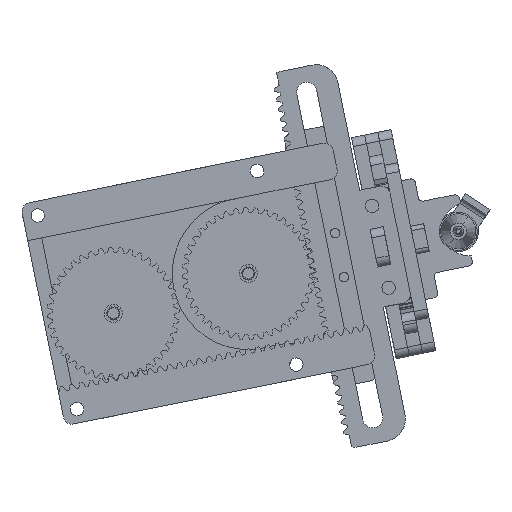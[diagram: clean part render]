
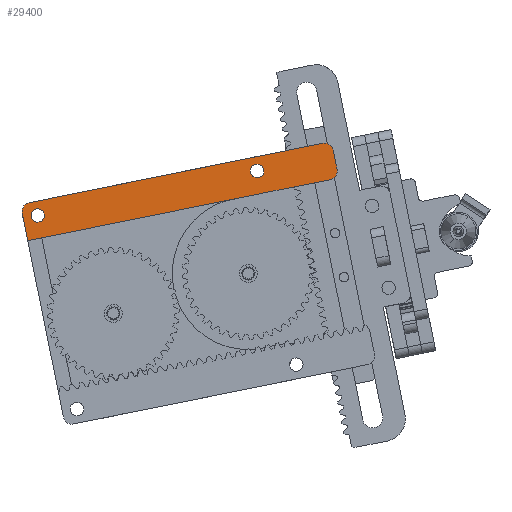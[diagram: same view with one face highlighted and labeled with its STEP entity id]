
A CAD part, front view. The second image highlights one B-rep face of the part: STEP entity #29400.
In plain terms, the highlighted planar face has unit normal (0, -1, 0).
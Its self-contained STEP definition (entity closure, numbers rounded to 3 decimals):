
#10187 = EDGE_CURVE ( 'NONE', #22955, #22954, #50646, .T. ) ;
#10191 = EDGE_CURVE ( 'NONE', #22948, #22947, #50651, .T. ) ;
#10193 = EDGE_CURVE ( 'NONE', #22944, #22943, #50656, .T. ) ;
#10194 = EDGE_CURVE ( 'NONE', #22955, #22946, #50657, .T. ) ;
#10925 = CARTESIAN_POINT ( 'NONE',  ( -2.378, 0., 7.2 ) ) ;
#10933 = CARTESIAN_POINT ( 'NONE',  ( -3.555, 0., 2.394 ) ) ;
#10934 = CARTESIAN_POINT ( 'NONE',  ( -3.555, 0., 5.394 ) ) ;
#10936 = CARTESIAN_POINT ( 'NONE',  ( -2.378, 0., -63.786 ) ) ;
#10937 = CARTESIAN_POINT ( 'NONE',  ( -3.538, 0., -47.687 ) ) ;
#10938 = CARTESIAN_POINT ( 'NONE',  ( -3.538, 0., -44.687 ) ) ;
#10939 = CARTESIAN_POINT ( 'NONE',  ( -6.668, 0., -63.786 ) ) ;
#10940 = CARTESIAN_POINT ( 'NONE',  ( -8.668, 0., -61.786 ) ) ;
#10943 = CARTESIAN_POINT ( 'NONE',  ( -8.668, 0., 7.2 ) ) ;
#10944 = CARTESIAN_POINT ( 'NONE',  ( -0.378, 0., 5.2 ) ) ;
#10945 = CARTESIAN_POINT ( 'NONE',  ( -0.378, 0., -61.786 ) ) ;
#15507 = DIRECTION ( 'NONE',  ( 0., 0., 1. ) ) ;
#15510 = CARTESIAN_POINT ( 'NONE',  ( -0.378, 0., 0. ) ) ;
#15519 = CARTESIAN_POINT ( 'NONE',  ( -3.538, 0., -46.187 ) ) ;
#15520 = DIRECTION ( 'NONE',  ( 0., 1., 0. ) ) ;
#15521 = DIRECTION ( 'NONE',  ( 0., 0., 1. ) ) ;
#15525 = CARTESIAN_POINT ( 'NONE',  ( -3.555, 0., 3.894 ) ) ;
#15526 = DIRECTION ( 'NONE',  ( 0., 1., 0. ) ) ;
#15527 = DIRECTION ( 'NONE',  ( 0., 0., 1. ) ) ;
#15530 = CARTESIAN_POINT ( 'NONE',  ( -2.378, 0., -61.786 ) ) ;
#15531 = DIRECTION ( 'NONE',  ( 0., 1., 0. ) ) ;
#15532 = DIRECTION ( 'NONE',  ( 0., 0., 1. ) ) ;
#17595 = FACE_BOUND ( 'NONE', #48616, .T. ) ;
#17599 = FACE_OUTER_BOUND ( 'NONE', #48613, .T. ) ;
#17604 = FACE_BOUND ( 'NONE', #48615, .T. ) ;
#19447 = AXIS2_PLACEMENT_3D ( 'NONE', #21595, #21591, #21602 ) ;
#19991 = AXIS2_PLACEMENT_3D ( 'NONE', #55836, #55837, #55838 ) ;
#19993 = AXIS2_PLACEMENT_3D ( 'NONE', #55847, #55848, #55849 ) ;
#19994 = AXIS2_PLACEMENT_3D ( 'NONE', #55859, #55860, #55861 ) ;
#19996 = AXIS2_PLACEMENT_3D ( 'NONE', #55878, #55879, #55880 ) ;
#21591 = DIRECTION ( 'NONE',  ( 0., 1., 0. ) ) ;
#21595 = CARTESIAN_POINT ( 'NONE',  ( 0., 0., 0. ) ) ;
#21598 = PLANE ( 'NONE',  #19447 ) ;
#21602 = DIRECTION ( 'NONE',  ( 0., 0., 1. ) ) ;
#22935 = VERTEX_POINT ( 'NONE', #10925 ) ;
#22943 = VERTEX_POINT ( 'NONE', #10933 ) ;
#22944 = VERTEX_POINT ( 'NONE', #10934 ) ;
#22946 = VERTEX_POINT ( 'NONE', #10936 ) ;
#22947 = VERTEX_POINT ( 'NONE', #10937 ) ;
#22948 = VERTEX_POINT ( 'NONE', #10938 ) ;
#22949 = VERTEX_POINT ( 'NONE', #10939 ) ;
#22950 = VERTEX_POINT ( 'NONE', #10940 ) ;
#22953 = VERTEX_POINT ( 'NONE', #10943 ) ;
#22954 = VERTEX_POINT ( 'NONE', #10944 ) ;
#22955 = VERTEX_POINT ( 'NONE', #10945 ) ;
#29400 = ADVANCED_FACE ( 'NONE', ( #17595, #17604, #17599 ), #21598, .F. ) ;
#37242 = EDGE_CURVE ( 'NONE', #22943, #22944, #56679, .T. ) ;
#37246 = EDGE_CURVE ( 'NONE', #22947, #22948, #56684, .T. ) ;
#37248 = EDGE_CURVE ( 'NONE', #22946, #22949, #56687, .T. ) ;
#37252 = EDGE_CURVE ( 'NONE', #22949, #22950, #56695, .T. ) ;
#37255 = EDGE_CURVE ( 'NONE', #22950, #22953, #56700, .T. ) ;
#37258 = EDGE_CURVE ( 'NONE', #22953, #22935, #56705, .T. ) ;
#37261 = EDGE_CURVE ( 'NONE', #22935, #22954, #56711, .T. ) ;
#42187 = ORIENTED_EDGE ( 'NONE', *, *, #37242, .T. ) ;
#42188 = ORIENTED_EDGE ( 'NONE', *, *, #10193, .T. ) ;
#42189 = ORIENTED_EDGE ( 'NONE', *, *, #37246, .T. ) ;
#42190 = ORIENTED_EDGE ( 'NONE', *, *, #10191, .T. ) ;
#42191 = ORIENTED_EDGE ( 'NONE', *, *, #37248, .F. ) ;
#42192 = ORIENTED_EDGE ( 'NONE', *, *, #10194, .F. ) ;
#42193 = ORIENTED_EDGE ( 'NONE', *, *, #10187, .T. ) ;
#42194 = ORIENTED_EDGE ( 'NONE', *, *, #37261, .F. ) ;
#42195 = ORIENTED_EDGE ( 'NONE', *, *, #37258, .F. ) ;
#42196 = ORIENTED_EDGE ( 'NONE', *, *, #37255, .F. ) ;
#42197 = ORIENTED_EDGE ( 'NONE', *, *, #37252, .F. ) ;
#48613 = EDGE_LOOP ( 'NONE', ( #42191, #42192, #42193, #42194, #42195, #42196, #42197 ) ) ;
#48615 = EDGE_LOOP ( 'NONE', ( #42189, #42190 ) ) ;
#48616 = EDGE_LOOP ( 'NONE', ( #42187, #42188 ) ) ;
#50139 = AXIS2_PLACEMENT_3D ( 'NONE', #15519, #15520, #15521 ) ;
#50141 = AXIS2_PLACEMENT_3D ( 'NONE', #15525, #15526, #15527 ) ;
#50142 = AXIS2_PLACEMENT_3D ( 'NONE', #15530, #15531, #15532 ) ;
#50646 = LINE ( 'NONE', #15510, #50650 ) ;
#50650 = VECTOR ( 'NONE', #15507, 1000. ) ;
#50651 = CIRCLE ( 'NONE', #50139, 1.5 ) ;
#50656 = CIRCLE ( 'NONE', #50141, 1.5 ) ;
#50657 = CIRCLE ( 'NONE', #50142, 2. ) ;
#55836 = CARTESIAN_POINT ( 'NONE',  ( -3.555, 0., 3.894 ) ) ;
#55837 = DIRECTION ( 'NONE',  ( 0., 1., 0. ) ) ;
#55838 = DIRECTION ( 'NONE',  ( 0., 0., 1. ) ) ;
#55847 = CARTESIAN_POINT ( 'NONE',  ( -3.538, 0., -46.187 ) ) ;
#55848 = DIRECTION ( 'NONE',  ( 0., 1., 0. ) ) ;
#55849 = DIRECTION ( 'NONE',  ( 0., 0., 1. ) ) ;
#55850 = CARTESIAN_POINT ( 'NONE',  ( 0., 0., -63.786 ) ) ;
#55852 = DIRECTION ( 'NONE',  ( -1., 0., 0. ) ) ;
#55858 = DIRECTION ( 'NONE',  ( 0., 0., 1. ) ) ;
#55859 = CARTESIAN_POINT ( 'NONE',  ( -6.668, 0., -61.786 ) ) ;
#55860 = DIRECTION ( 'NONE',  ( 0., 1., 0. ) ) ;
#55861 = DIRECTION ( 'NONE',  ( 0., 0., 1. ) ) ;
#55862 = CARTESIAN_POINT ( 'NONE',  ( -8.668, 0., 0. ) ) ;
#55872 = CARTESIAN_POINT ( 'NONE',  ( 0., 0., 7.2 ) ) ;
#55873 = DIRECTION ( 'NONE',  ( 1., 0., 0. ) ) ;
#55878 = CARTESIAN_POINT ( 'NONE',  ( -2.378, 0., 5.2 ) ) ;
#55879 = DIRECTION ( 'NONE',  ( 0., 1., 0. ) ) ;
#55880 = DIRECTION ( 'NONE',  ( 0., 0., 1. ) ) ;
#56679 = CIRCLE ( 'NONE', #19991, 1.5 ) ;
#56684 = CIRCLE ( 'NONE', #19993, 1.5 ) ;
#56687 = LINE ( 'NONE', #55850, #56690 ) ;
#56690 = VECTOR ( 'NONE', #55852, 1000. ) ;
#56695 = CIRCLE ( 'NONE', #19994, 2. ) ;
#56700 = LINE ( 'NONE', #55862, #56702 ) ;
#56702 = VECTOR ( 'NONE', #55858, 1000. ) ;
#56705 = LINE ( 'NONE', #55872, #56708 ) ;
#56708 = VECTOR ( 'NONE', #55873, 1000. ) ;
#56711 = CIRCLE ( 'NONE', #19996, 2. ) ;
